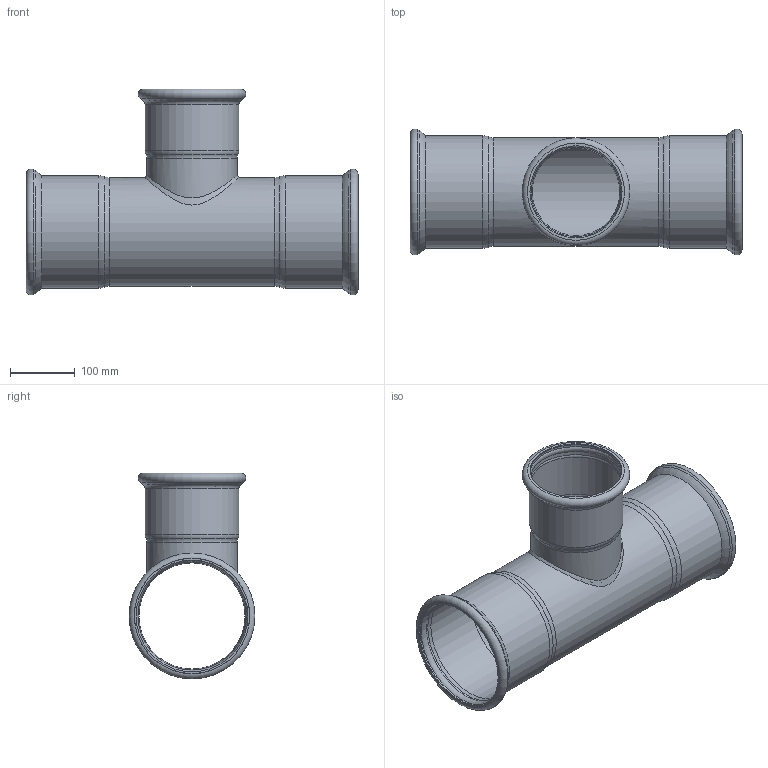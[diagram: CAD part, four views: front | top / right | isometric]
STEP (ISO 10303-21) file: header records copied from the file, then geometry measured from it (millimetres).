
FILE_DESCRIPTION(/* description */ (''),/* implementation_level */ '2;1');
FILE_NAME(/* name */ 'R:\Disegni3D_Area_Manager\Inoxpres.step\192_INOXPRES\192168139_Inoxpres.stp',/* time_stamp */ '2022-10-12T11:04:52+02:00',/* author */ ('Vault'),/* organization */ ('Raccorderie metalliche s.p.a. '),/* preprocessor_version */ 'ST-DEVELOPER v18.1',/* originating_system */ 'Autodesk Inventor 2020',/* authorisation */ 'Raccorderie metalliche s.p.a. ');
FILE_SCHEMA (('AUTOMOTIVE_DESIGN { 1 0 10303 214 3 1 1 }'));
Length unit declared in the file: millimetre
Products named in the file (1): 192168139_Inoxpres
Bounding box: 514 x 194.8 x 318.55 mm (x, y, z)
Volume: 1008803.4 mm3; surface area: 791347.6 mm2
Topology: 4 solids, 4 shells, 74 faces, 252 edges, 184 vertices
Faces by surface type: torus 33, cylinder 19, cone 13, plane 6, bspline 3
Full cylindrical faces by diameter (mm): 135.7 x1, 139.7 x1, 141 x1, 142.5 x3, 145 x1, 164.3 x1, 168.3 x1, 170 x2, 173 x6, 174 x2
Entity records: 3874 total; most frequent: CARTESIAN_POINT 1405, DIRECTION 592, ORIENTED_EDGE 506, AXIS2_PLACEMENT_3D 278, EDGE_CURVE 253, CIRCLE 206, VERTEX_POINT 185, EDGE_LOOP 82
